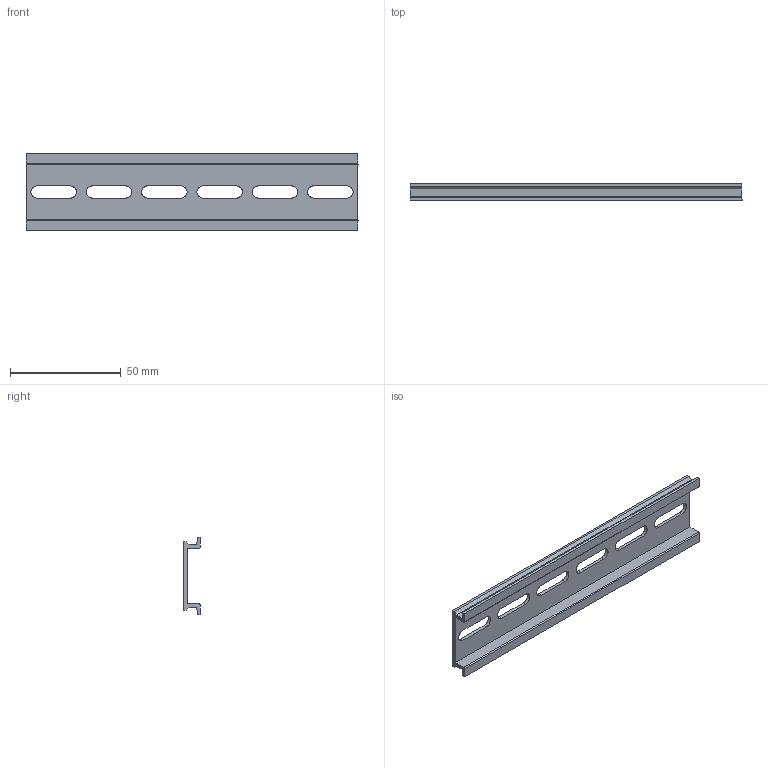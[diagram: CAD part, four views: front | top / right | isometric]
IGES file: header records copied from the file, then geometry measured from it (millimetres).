
Start section: ------------------------------------------------------------------------
Global section: file name: D:\ICADMX\tmp\trans3d_spg\CVICAD02.21224.DIN-RAIL150_7756.igs; native system: spGate; preprocessor: ver12.6.6; author: Unknown; organization: Unknown; date: 200901.142014; units: millimetre
Bounding box: 150 x 7.5 x 35 mm (x, y, z)
Volume: 10589.7 mm3; surface area: 14258.9 mm2
Topology: 1 solids, 1 shells, 44 faces, 126 edges, 84 vertices
Faces by surface type: bspline 44
